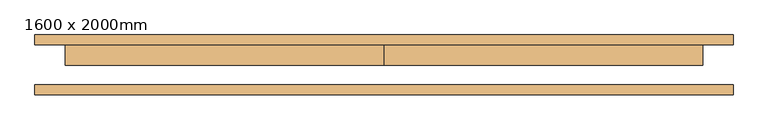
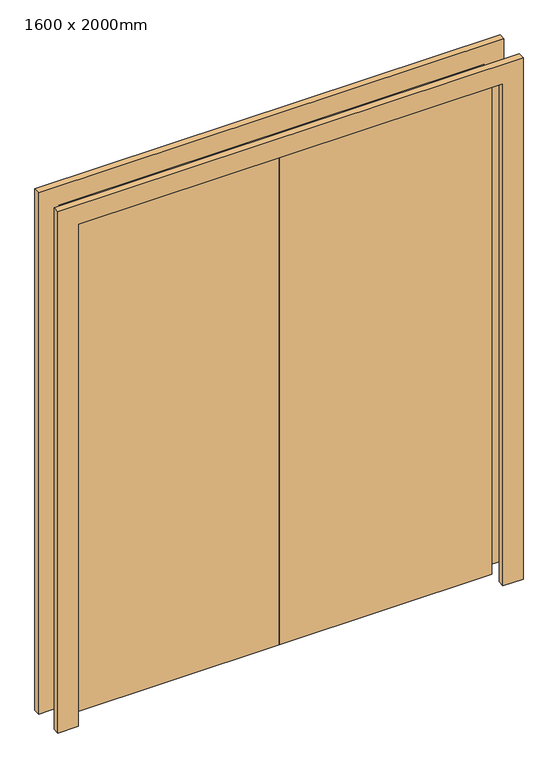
"""IFC4 building model written with IfcOpenShell, lengths in millimetres: door geometry, DvoukridleOtevirave : 1600 x 2000mm."""

from ifc_helpers import new_model, si_unit, frame, origin, origin_with_axes, place, context, project, spatial, polyline, outline, extrude, source, transform, mapped, element, save


def door_1600_x_2000mm_ba48827e(model_context):
    return source(origin(), model_context, "Body", "SweptSolid", [
        extrude(outline(polyline([(0.0, 50.0), (800.0, 50.0), (800.0, -1.0), (0.0, -1.0), (0.0, 50.0)])), origin_with_axes(), (0.0, 0.0, 1.0), 2000.0),
        extrude(outline(polyline([(-800.0, 50.0), (0.0, 50.0), (0.0, -1.0), (-800.0, -1.0), (-800.0, 50.0)])), origin_with_axes(), (0.0, 0.0, 1.0), 2000.0),
        extrude(outline(polyline([(2000.0, -800.0), (2000.0, 800.0), (0.0, 800.0), (0.0, 876.0), (2076.0, 876.0), (2076.0, -876.0), (0.0, -876.0), (0.0, -800.0), (2000.0, -800.0)])), frame((0.0, -75.0, 0.0), z_axis=(0.0, 1.0, 0.0), x_axis=(0.0, 0.0, 1.0)), (0.0, 0.0, 1.0), 25.0),
        extrude(outline(polyline([(2000.0, -800.0), (2000.0, 800.0), (0.0, 800.0), (0.0, 876.0), (2076.0, 876.0), (2076.0, -876.0), (0.0, -876.0), (0.0, -800.0), (2000.0, -800.0)])), frame((0.0, 50.0, 0.0), z_axis=(0.0, 1.0, 0.0), x_axis=(0.0, 0.0, 1.0)), (0.0, 0.0, 1.0), 25.0),
    ])


if __name__ == "__main__":
    model = new_model("IFC4")
    model_context = context("Model", 3, world=origin())
    ifc_project = project(units=[si_unit("LENGTHUNIT", "METRE", prefix="MILLI")], contexts=[model_context])
    site = spatial("IfcSite", under=ifc_project)
    building = spatial("IfcBuilding", under=site)
    placement = place(None, origin())
    door_1600_x_2000mm_shape = door_1600_x_2000mm_ba48827e(model_context)
    element("IfcDoor", 1, ObjectType="DvoukridleOtevirave : 1600 x 2000mm", at=placement, inside=building, context=model_context, shape_type="MappedRepresentation", body=[
        mapped(door_1600_x_2000mm_shape, transform((0.0, 0.0, 0.0), x_axis=(1.0, 0.0, 0.0), y_axis=(0.0, 1.0, 0.0), z_axis=(0.0, 0.0, 1.0))),
    ])
    save(model, "model.ifc")
